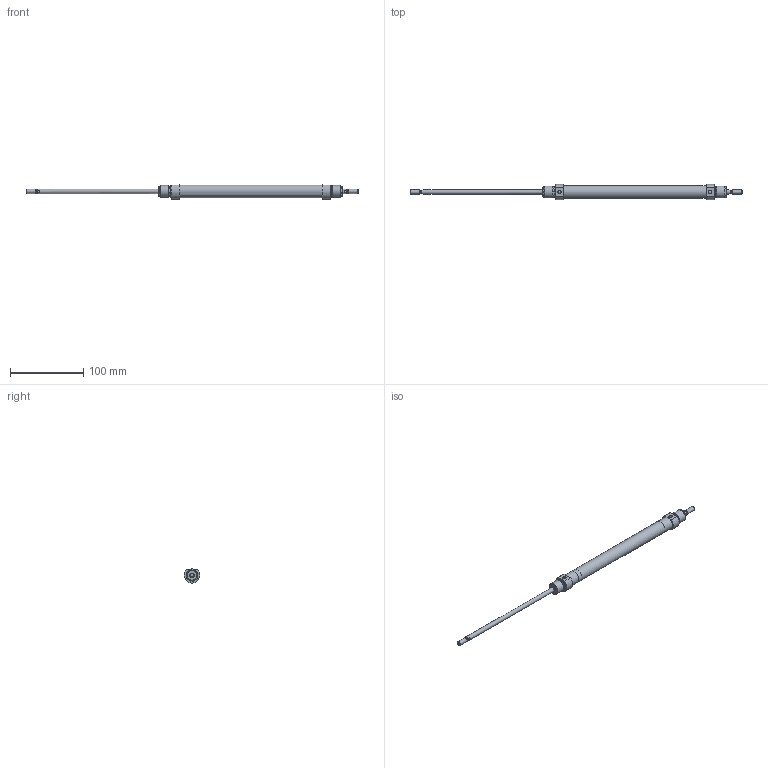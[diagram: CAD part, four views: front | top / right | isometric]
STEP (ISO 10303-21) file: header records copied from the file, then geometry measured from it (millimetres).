
FILE_DESCRIPTION( ( 'STEP AP203' ), '1' );
FILE_NAME( '//expscmdclustefs.cadenas.external/client_exchange/iodir/jobs/output/wkb68411884_no0/STEP/M101-016-0160--__0__2_03.stp', ' ', ( ' ' ), ( ' ' ), 'PSStep 15.0.47', 'PARTsolutions', ' ' );
FILE_SCHEMA( ( 'CONFIG_CONTROL_DESIGN' ) );
Length unit declared in the file: millimetre
Products named in the file (3): M101-016-0160-- [0]; HI_M101-016-0160---[0]-z; HI_M101-016-0160---[0]-k
Assembly tree (2 placements, depth 2):
  M101-016-0160-- [0]
    HI_M101-016-0160---[0]-z
    HI_M101-016-0160---[0]-k
Bounding box: 452 x 20.94 x 19.09 mm (x, y, z)
Volume: 37243.3 mm3; surface area: 33966.5 mm2
Topology: 2 solids, 2 shells, 67 faces, 135 edges, 82 vertices
Faces by surface type: plane 28, cylinder 23, cone 14, torus 2
Full cylindrical faces by diameter (mm): 4.134 x2, 4.773 x2, 6 x6, 14.16 x4, 16 x6, 17.3 x1
Entity records: 1730 total; most frequent: CARTESIAN_POINT 334, DIRECTION 292, ORIENTED_EDGE 196, AXIS2_PLACEMENT_3D 132, EDGE_LOOP 116, EDGE_CURVE 98, FACE_OUTER_BOUND 90, VERTEX_POINT 78
